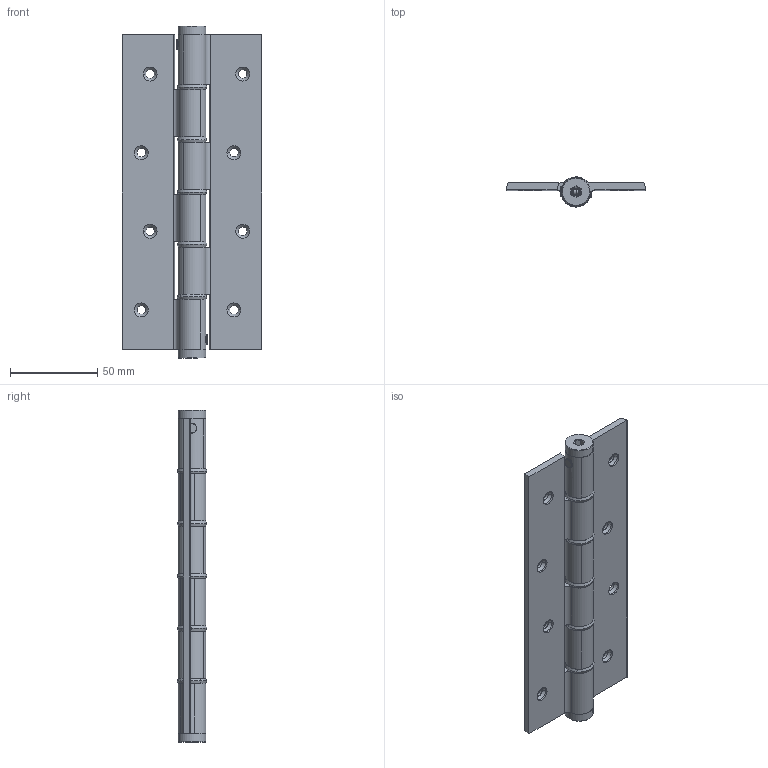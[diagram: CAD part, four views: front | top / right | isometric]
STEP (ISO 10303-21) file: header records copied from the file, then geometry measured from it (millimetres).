
FILE_DESCRIPTION((''),'2;1');
FILE_NAME('158.5814.01-.03,06,09.stp','2015-02-02T13:37:47',(''),(''),'Mechanical Desktop 2006','Mechanical Desktop 2006',', , ');
FILE_SCHEMA(('CONFIG_CONTROL_DESIGN'));
Length unit declared in the file: millimetre
Products named in the file (13): 158.5814.01-.03,06,09; ASSEM1; BAU5; BAU8; BAU9; BAU10; BAU11; 058.017.0.2 55803 PALA SA 180(1); 059.010.0.2 76305 VOLANDERA NYLON 16X12X3(2); BAU6; BAU7; 057.020.0.2 PASSADOR FRONTISSES 3 X 9.5(2); 057.028.0.0 55719 TAP FRONTISSA -FORADAT-(2)
Assembly tree (19 placements, depth 3):
  158.5814.01-.03,06,09
    ASSEM1
      BAU5
      BAU8
      BAU9
      BAU10
      BAU11
    058.017.0.2 55803 PALA SA 180(1)  x2
    059.010.0.2 76305 VOLANDERA NYLON 16X12X3(2)  x5
    BAU6
    BAU7
    057.020.0.2 PASSADOR FRONTISSES 3 X 9.5(2)  x2
    057.028.0.0 55719 TAP FRONTISSA -FORADAT-(2)  x2
Bounding box: 80 x 17.1 x 190 mm (x, y, z)
Volume: 59302.8 mm3; surface area: 46061.7 mm2
Topology: 9 solids, 11 shells, 358 faces, 912 edges, 554 vertices
Faces by surface type: cylinder 192, plane 86, cone 64, torus 8, sphere 8
Entity records: 5923 total; most frequent: CARTESIAN_POINT 1466, DIRECTION 951, ORIENTED_EDGE 849, EDGE_CURVE 428, AXIS2_PLACEMENT_3D 383, VERTEX_POINT 262, EDGE_LOOP 192, VECTOR 185
